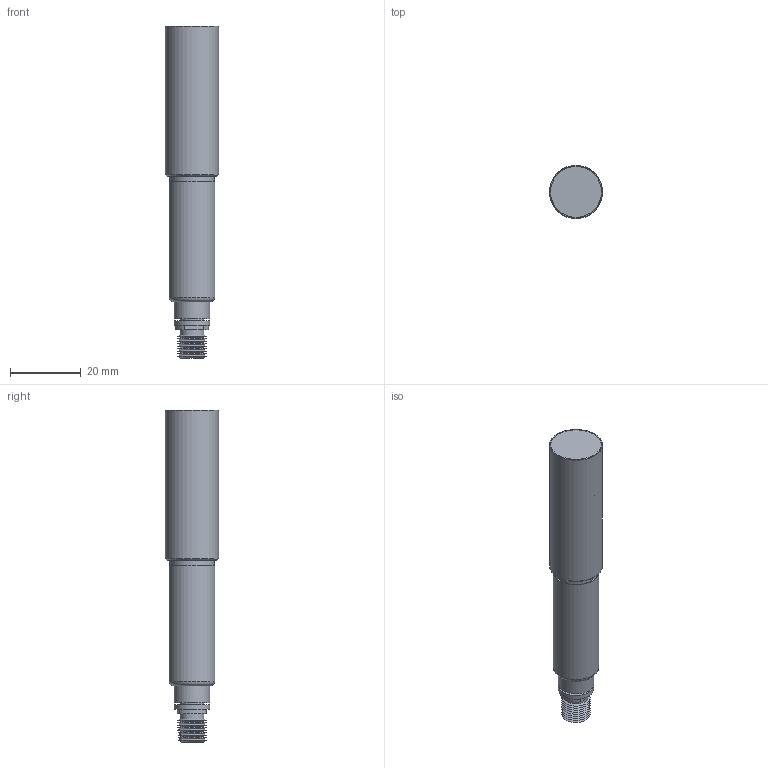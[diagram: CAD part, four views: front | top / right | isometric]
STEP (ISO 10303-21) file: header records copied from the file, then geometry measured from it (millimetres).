
FILE_DESCRIPTION(/* description */ ('IFS2404-8'),/* implementation_level */ '2;1');
FILE_NAME(/* name */ '104522_IFS2404-8.stp',/* time_stamp */ '2026-04-10T11:38:04+02:00',/* author */ ('sven'),/* organization */ ('Unknown organisation'),/* preprocessor_version */ 'ST-DEVELOPER v20.1',/* originating_system */ 'Autodesk Inventor 2026',/* authorisation */ '');
FILE_SCHEMA (('AUTOMOTIVE_DESIGN { 1 0 10303 214 3 1 1 }'));
Length unit declared in the file: millimetre
Products named in the file (9): Z_104522; FOA-019; FOA-019_1; 10.10214; 40.000129_Faserbaugruppe; Z_104575; Z_104576; Z_104577; DummyOptik
Assembly tree (8 placements, depth 3):
  Z_104522
    FOA-019
      FOA-019_1
    10.10214
    40.000129_Faserbaugruppe
    Z_104575
    Z_104576
    Z_104577
    DummyOptik
Bounding box: 15 x 15 x 93.87 mm (x, y, z)
Volume: 14115.9 mm3; surface area: 13798.7 mm2
Topology: 6 solids, 6 shells, 100 faces, 221 edges, 146 vertices
Faces by surface type: cone 35, plane 33, cylinder 31, torus 1
Full cylindrical faces by diameter (mm): 2.5 x1, 2.54 x1, 3.962 x2, 5.969 x1, 6.24 x1, 6.5 x1, 6.731 x2, 7.3 x1, 8 x2, 8.3 x1, 10 x3, 11.2 x1, 12.5 x3, 13 x1, 13.8 x1, 14.4 x3, 15 x1
Entity records: 3197 total; most frequent: CARTESIAN_POINT 644, DIRECTION 517, ORIENTED_EDGE 442, AXIS2_PLACEMENT_3D 225, EDGE_CURVE 221, VERTEX_POINT 146, EDGE_LOOP 123, CIRCLE 108
